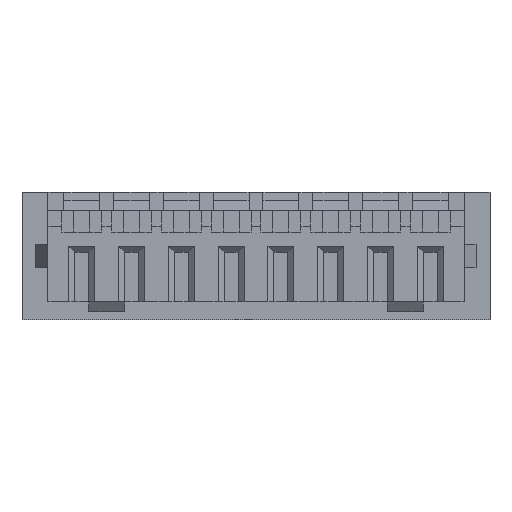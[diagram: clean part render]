
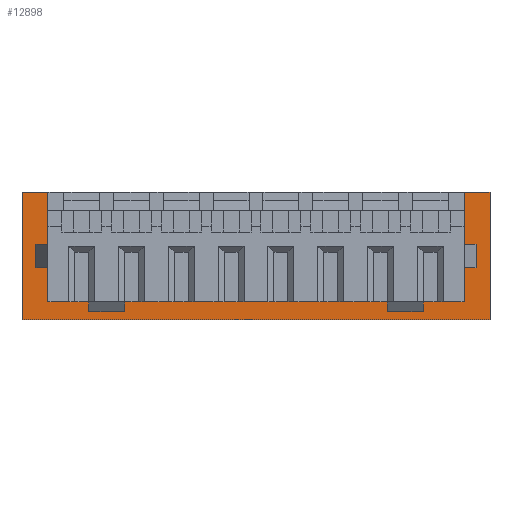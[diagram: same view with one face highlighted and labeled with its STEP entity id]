
A CAD part, front view. The second image highlights one B-rep face of the part: STEP entity #12898.
In plain terms, the highlighted planar face has unit normal (0, -1, 0).
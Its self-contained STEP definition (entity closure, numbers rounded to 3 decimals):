
#1101=DIRECTION('',(-1.,0.,0.));
#1102=VECTOR('',#1101,11.75);
#1103=CARTESIAN_POINT('',(5.875,1.375,-1.6));
#1104=LINE('',#1103,#1102);
#1105=DIRECTION('',(0.,0.,1.));
#1106=VECTOR('',#1105,3.2);
#1107=CARTESIAN_POINT('',(-5.875,1.375,-1.6));
#1108=LINE('',#1107,#1106);
#1109=DIRECTION('',(1.,0.,0.));
#1110=VECTOR('',#1109,0.3);
#1111=CARTESIAN_POINT('',(-5.525,1.375,0.3));
#1112=LINE('',#1111,#1110);
#1113=DIRECTION('',(0.,0.,1.));
#1114=VECTOR('',#1113,0.6);
#1115=CARTESIAN_POINT('',(-5.525,1.375,-0.3));
#1116=LINE('',#1115,#1114);
#1117=DIRECTION('',(1.,0.,0.));
#1118=VECTOR('',#1117,0.3);
#1119=CARTESIAN_POINT('',(-5.525,1.375,-0.3));
#1120=LINE('',#1119,#1118);
#1121=DIRECTION('',(0.,0.,1.));
#1122=VECTOR('',#1121,0.85);
#1123=CARTESIAN_POINT('',(5.225,1.375,-1.15));
#1124=LINE('',#1123,#1122);
#1125=DIRECTION('',(1.,0.,0.));
#1126=VECTOR('',#1125,0.3);
#1127=CARTESIAN_POINT('',(5.225,1.375,-0.3));
#1128=LINE('',#1127,#1126);
#1129=DIRECTION('',(0.,0.,1.));
#1130=VECTOR('',#1129,0.6);
#1131=CARTESIAN_POINT('',(5.525,1.375,-0.3));
#1132=LINE('',#1131,#1130);
#1133=DIRECTION('',(1.,0.,0.));
#1134=VECTOR('',#1133,0.3);
#1135=CARTESIAN_POINT('',(5.225,1.375,0.3));
#1136=LINE('',#1135,#1134);
#1137=DIRECTION('',(0.,0.,1.));
#1138=VECTOR('',#1137,1.3);
#1139=CARTESIAN_POINT('',(5.225,1.375,0.3));
#1140=LINE('',#1139,#1138);
#1185=DIRECTION('',(1.,0.,0.));
#1186=VECTOR('',#1185,0.65);
#1187=CARTESIAN_POINT('',(-5.875,1.375,1.6));
#1188=LINE('',#1187,#1186);
#1201=DIRECTION('',(1.,0.,0.));
#1202=VECTOR('',#1201,0.65);
#1203=CARTESIAN_POINT('',(5.225,1.375,1.6));
#1204=LINE('',#1203,#1202);
#1469=DIRECTION('',(-1.,0.,0.));
#1470=VECTOR('',#1469,10.45);
#1471=CARTESIAN_POINT('',(5.225,1.375,-1.15));
#1472=LINE('',#1471,#1470);
#1901=DIRECTION('',(0.,0.,1.));
#1902=VECTOR('',#1901,0.85);
#1903=CARTESIAN_POINT('',(-5.225,1.375,-1.15));
#1904=LINE('',#1903,#1902);
#1917=DIRECTION('',(0.,0.,1.));
#1918=VECTOR('',#1917,1.3);
#1919=CARTESIAN_POINT('',(-5.225,1.375,0.3));
#1920=LINE('',#1919,#1918);
#3273=DIRECTION('',(0.,0.,1.));
#3274=VECTOR('',#3273,3.2);
#3275=CARTESIAN_POINT('',(5.875,1.375,-1.6));
#3276=LINE('',#3275,#3274);
#8425=CARTESIAN_POINT('',(5.875,1.375,-1.6));
#8427=VERTEX_POINT('',#8425);
#8431=CARTESIAN_POINT('',(-5.875,1.375,-1.6));
#8432=VERTEX_POINT('',#8431);
#8433=CARTESIAN_POINT('',(5.225,1.375,1.6));
#8434=CARTESIAN_POINT('',(5.875,1.375,1.6));
#8435=VERTEX_POINT('',#8433);
#8436=VERTEX_POINT('',#8434);
#8441=CARTESIAN_POINT('',(-5.875,1.375,1.6));
#8442=VERTEX_POINT('',#8441);
#8443=CARTESIAN_POINT('',(-5.225,1.375,1.6));
#8444=VERTEX_POINT('',#8443);
#8453=CARTESIAN_POINT('',(-5.225,1.375,-0.3));
#8455=VERTEX_POINT('',#8453);
#8457=CARTESIAN_POINT('',(-5.225,1.375,0.3));
#8459=VERTEX_POINT('',#8457);
#8461=CARTESIAN_POINT('',(5.225,1.375,-0.3));
#8463=VERTEX_POINT('',#8461);
#8465=CARTESIAN_POINT('',(5.225,1.375,0.3));
#8467=VERTEX_POINT('',#8465);
#8469=CARTESIAN_POINT('',(5.525,1.375,-0.3));
#8470=VERTEX_POINT('',#8469);
#8471=CARTESIAN_POINT('',(5.525,1.375,0.3));
#8472=VERTEX_POINT('',#8471);
#8473=CARTESIAN_POINT('',(-5.525,1.375,-0.3));
#8474=VERTEX_POINT('',#8473);
#8475=CARTESIAN_POINT('',(-5.525,1.375,0.3));
#8476=VERTEX_POINT('',#8475);
#8477=CARTESIAN_POINT('',(-5.225,1.375,-1.15));
#8479=VERTEX_POINT('',#8477);
#8494=CARTESIAN_POINT('',(5.225,1.375,-1.15));
#8496=VERTEX_POINT('',#8494);
#12860=CARTESIAN_POINT('',(5.225,1.375,-1.6));
#12861=DIRECTION('',(0.,-1.,0.));
#12862=DIRECTION('',(1.,0.,0.));
#12863=AXIS2_PLACEMENT_3D('',#12860,#12861,#12862);
#12864=PLANE('',#12863);
#12865=ORIENTED_EDGE('',*,*,#12850,.T.);
#12867=ORIENTED_EDGE('',*,*,#12866,.T.);
#12869=ORIENTED_EDGE('',*,*,#12868,.T.);
#12871=ORIENTED_EDGE('',*,*,#12870,.F.);
#12873=ORIENTED_EDGE('',*,*,#12872,.F.);
#12875=ORIENTED_EDGE('',*,*,#12874,.F.);
#12877=ORIENTED_EDGE('',*,*,#12876,.T.);
#12879=ORIENTED_EDGE('',*,*,#12878,.F.);
#12881=ORIENTED_EDGE('',*,*,#12880,.F.);
#12883=ORIENTED_EDGE('',*,*,#12882,.T.);
#12885=ORIENTED_EDGE('',*,*,#12884,.T.);
#12887=ORIENTED_EDGE('',*,*,#12886,.T.);
#12889=ORIENTED_EDGE('',*,*,#12888,.F.);
#12891=ORIENTED_EDGE('',*,*,#12890,.T.);
#12893=ORIENTED_EDGE('',*,*,#12892,.T.);
#12895=ORIENTED_EDGE('',*,*,#12894,.F.);
#12896=EDGE_LOOP('',(#12865,#12867,#12869,#12871,#12873,#12875,#12877,#12879,
#12881,#12883,#12885,#12887,#12889,#12891,#12893,#12895));
#12897=FACE_OUTER_BOUND('',#12896,.F.);
#12898=ADVANCED_FACE('',(#12897),#12864,.T.);
#12850=EDGE_CURVE('',#8427,#8432,#1104,.T.);
#12866=EDGE_CURVE('',#8432,#8442,#1108,.T.);
#12868=EDGE_CURVE('',#8442,#8444,#1188,.T.);
#12870=EDGE_CURVE('',#8459,#8444,#1920,.T.);
#12872=EDGE_CURVE('',#8476,#8459,#1112,.T.);
#12874=EDGE_CURVE('',#8474,#8476,#1116,.T.);
#12876=EDGE_CURVE('',#8474,#8455,#1120,.T.);
#12878=EDGE_CURVE('',#8479,#8455,#1904,.T.);
#12880=EDGE_CURVE('',#8496,#8479,#1472,.T.);
#12882=EDGE_CURVE('',#8496,#8463,#1124,.T.);
#12884=EDGE_CURVE('',#8463,#8470,#1128,.T.);
#12886=EDGE_CURVE('',#8470,#8472,#1132,.T.);
#12888=EDGE_CURVE('',#8467,#8472,#1136,.T.);
#12890=EDGE_CURVE('',#8467,#8435,#1140,.T.);
#12892=EDGE_CURVE('',#8435,#8436,#1204,.T.);
#12894=EDGE_CURVE('',#8427,#8436,#3276,.T.);
